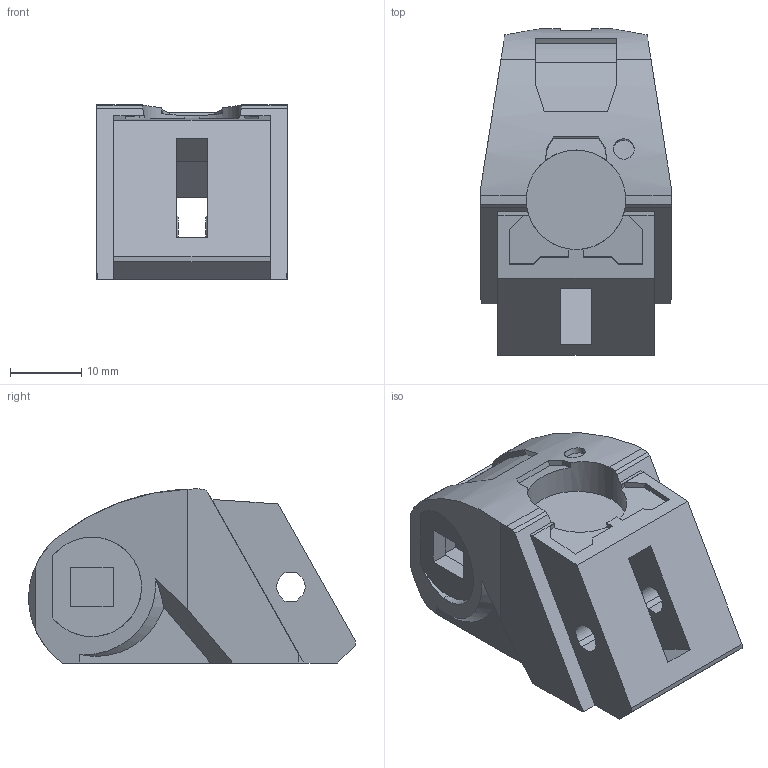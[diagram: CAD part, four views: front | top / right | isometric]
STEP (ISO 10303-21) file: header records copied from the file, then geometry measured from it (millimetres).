
FILE_DESCRIPTION (( 'STEP AP214' ), '1' );
FILE_NAME ('B1-chest-Standard.step', '2023-08-03T13:47:47', ( '' ), ( '' ), 'SwSTEP 2.0', 'SolidWorks 2020', '' );
FILE_SCHEMA (( 'AUTOMOTIVE_DESIGN' ));
Length unit declared in the file: millimetre
Products named in the file (1): B1-chest-Standard
Bounding box: 26.8 x 45.93 x 24.48 mm (x, y, z)
Volume: 16345 mm3; surface area: 6742.1 mm2
Topology: 1 solids, 1 shells, 128 faces, 350 edges, 232 vertices
Faces by surface type: plane 86, cylinder 20, bspline 15, cone 7
Entity records: 4452 total; most frequent: CARTESIAN_POINT 1401, ORIENTED_EDGE 700, DIRECTION 510, EDGE_CURVE 350, VERTEX_POINT 232, LINE 212, VECTOR 212, AXIS2_PLACEMENT_3D 149
